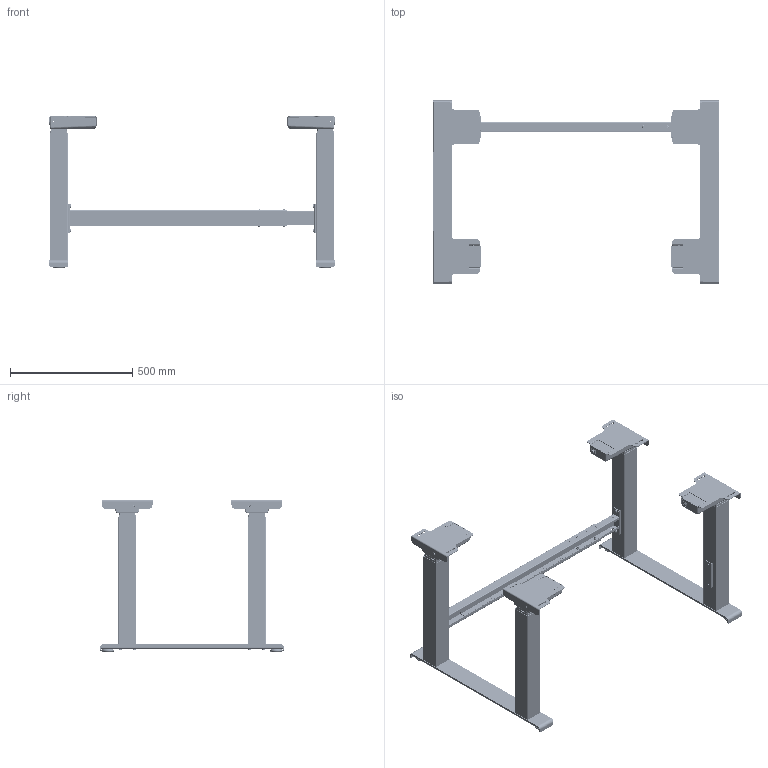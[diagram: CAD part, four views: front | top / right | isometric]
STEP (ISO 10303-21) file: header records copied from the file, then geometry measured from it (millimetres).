
FILE_DESCRIPTION(/* description */ ('Unknown'),/* implementation_level */ '2;1');
FILE_NAME(/* name */ 'Untergestell EA 4665 XX XX_00-Eingefahren',/* time_stamp */ '2025-11-05T13:58:55+01:00',/* author */ ('Unknown'),/* organization */ ('Unknown'),/* preprocessor_version */ 'ST-DEVELOPER v20',/* originating_system */ 'Solid Edge',/* authorisation */ 'Unknown');
FILE_SCHEMA (('AUTOMOTIVE_DESIGN {1 0 10303 214 3 1 1}'));
Products named in the file (23): Untergestell EA 4665 XX XX; 127.00831; EA4 Tischfuss unten; EA4 Tischfuss oben; Regulierfuss; 801.00036; EA Aussenprofil; EA Mittelprofil; EA Innenprofil; EA Motorengehäuse; EA Deckel; EA Molex; 127.00842; E1 Traverse aussen; E1 Traverse innen; Halbrundkopfschraube M6x16; Scheibe ﾘ6,4; Sechskantmutter M6; Halbrundkopfschraube M8x10; 127.00811; Halbrundkopfschraube M6x32; Senkschraube M6x12
Assembly tree (71 placements, depth 3):
  Untergestell EA 4665 XX XX
    127.00831  x2
      EA4 Tischfuss unten
      EA4 Tischfuss oben
      Regulierfuss
    801.00036  x4
      EA Aussenprofil
      EA Mittelprofil
      EA Innenprofil
      EA Motorengehäuse
      EA Deckel
      EA Molex
    127.00842
      E1 Traverse aussen
      E1 Traverse innen
      Halbrundkopfschraube M6x16  x4
      Scheibe ﾘ6,4  x4
      Sechskantmutter M6  x4
      Halbrundkopfschraube M8x10  x4
    127.00811  x2
    127.00811  x2
    Halbrundkopfschraube M6x32  x16
    Senkschraube M6x12  x16
Bounding box: 1171 x 750 x 619.5 mm (x, y, z)
Volume: 5549391.6 mm3; surface area: 5462131.2 mm2
Topology: 94 solids, 94 shells, 5651 faces, 15593 edges, 10258 vertices
Faces by surface type: plane 2840, cylinder 1807, cone 432, torus 360, bspline 176, sphere 36
Full cylindrical faces by diameter (mm): 4.2 x8, 4.5 x16, 4.917 x56, 5.6 x32, 5.7 x32, 5.75 x8, 6 x44, 6.4 x4, 6.647 x8, 6.8 x8, 7.2 x24, 8 x4, 12 x20, 13.6 x4, 14 x4
Entity records: 59206 total; most frequent: CARTESIAN_POINT 13872, ORIENTED_EDGE 8816, DIRECTION 8127, EDGE_CURVE 4408, VERTEX_POINT 2931, AXIS2_PLACEMENT_3D 2839, LINE 2449, VECTOR 2449
